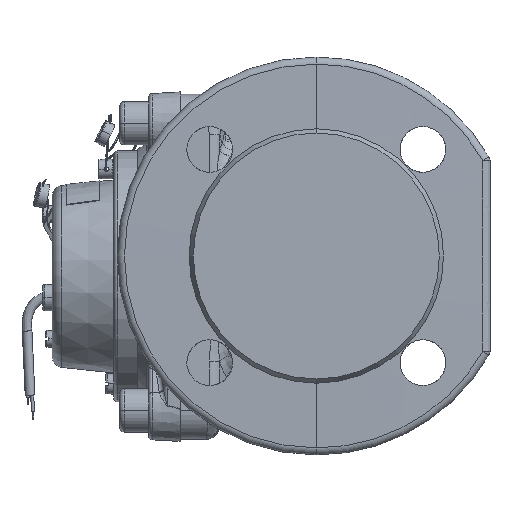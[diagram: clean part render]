
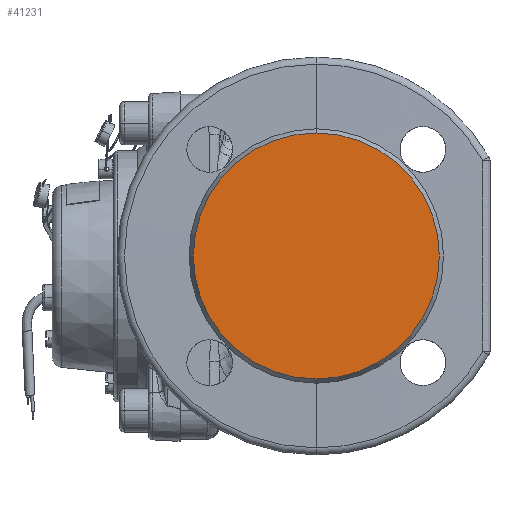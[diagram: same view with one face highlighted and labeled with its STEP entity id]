
A CAD part, left-side view. The second image highlights one B-rep face of the part: STEP entity #41231.
In plain terms, the highlighted planar face has unit normal (-1, 0, 0).
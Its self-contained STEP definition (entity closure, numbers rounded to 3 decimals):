
#2866 = ORIENTED_EDGE ( 'NONE', *, *, #95233, .T. ) ;
#4044 = AXIS2_PLACEMENT_3D ( 'NONE', #81943, #8529, #90183 ) ;
#8529 = DIRECTION ( 'NONE',  ( -1., 0., 0. ) ) ;
#9287 = CARTESIAN_POINT ( 'NONE',  ( -100., 0., 0. ) ) ;
#12106 = VERTEX_POINT ( 'NONE', #61864 ) ;
#21584 = AXIS2_PLACEMENT_3D ( 'NONE', #31554, #55852, #61731 ) ;
#29439 = FACE_OUTER_BOUND ( 'NONE', #84368, .T. ) ;
#30868 = PLANE ( 'NONE',  #4044 ) ;
#31554 = CARTESIAN_POINT ( 'NONE',  ( -100., 0., 0. ) ) ;
#31902 = VERTEX_POINT ( 'NONE', #51998 ) ;
#38945 = DIRECTION ( 'NONE',  ( 0., 0., 1. ) ) ;
#41231 = ADVANCED_FACE ( 'NONE', ( #29439 ), #30868, .T. ) ;
#51998 = CARTESIAN_POINT ( 'NONE',  ( -100., 0., 51. ) ) ;
#54283 = CIRCLE ( 'NONE', #21584, 51. ) ;
#55645 = CIRCLE ( 'NONE', #61835, 51. ) ;
#55852 = DIRECTION ( 'NONE',  ( -1., 0., 0. ) ) ;
#61731 = DIRECTION ( 'NONE',  ( 0., 0., 1. ) ) ;
#61835 = AXIS2_PLACEMENT_3D ( 'NONE', #9287, #91883, #38945 ) ;
#61864 = CARTESIAN_POINT ( 'NONE',  ( -100., 0., -51. ) ) ;
#79318 = ORIENTED_EDGE ( 'NONE', *, *, #90724, .T. ) ;
#81943 = CARTESIAN_POINT ( 'NONE',  ( -100., 0., 0. ) ) ;
#84368 = EDGE_LOOP ( 'NONE', ( #79318, #2866 ) ) ;
#90183 = DIRECTION ( 'NONE',  ( 0., 0., 1. ) ) ;
#90724 = EDGE_CURVE ( 'NONE', #12106, #31902, #54283, .T. ) ;
#91883 = DIRECTION ( 'NONE',  ( -1., 0., 0. ) ) ;
#95233 = EDGE_CURVE ( 'NONE', #31902, #12106, #55645, .T. ) ;
